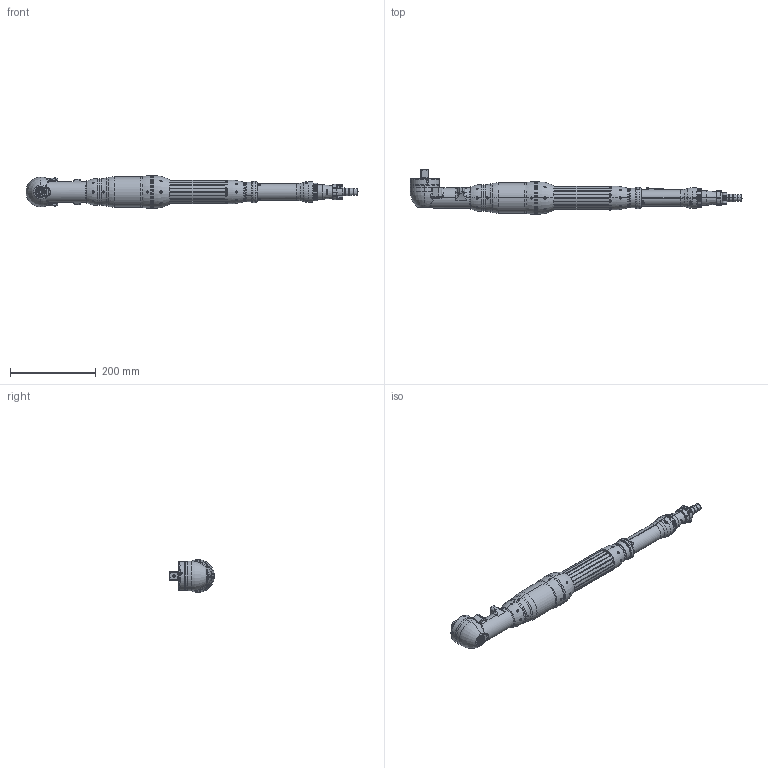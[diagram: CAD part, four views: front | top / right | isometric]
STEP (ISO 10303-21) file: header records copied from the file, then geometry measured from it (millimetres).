
FILE_DESCRIPTION (( 'STEP AP214' ), '1' );
FILE_NAME ('370拧紧枪.STEP', '2025-05-23T01:57:54', ( '' ), ( '' ), 'SwSTEP 2.0', 'SolidWorks 2021', '' );
FILE_SCHEMA (( 'AUTOMOTIVE_DESIGN' ));
Length unit declared in the file: millimetre
Products named in the file (1): 370禳踡Л
Bounding box: 774.8 x 104 x 76 mm (x, y, z)
Surface area: 158638.6 mm2 (no closed solid volume)
Topology: 0 solids, 34 shells, 1189 faces, 3743 edges, 2587 vertices
Faces by surface type: plane 455, cylinder 396, bspline 138, torus 116, cone 84
Entity records: 114792 total; most frequent: CARTESIAN_POINT 71837, ORIENTED_EDGE 6105, DIRECTION 5407, EDGE_CURVE 3731, VERTEX_POINT 2587, AXIS2_PLACEMENT_3D 2068, B_SPLINE_CURVE_WITH_KNOTS 1440, EDGE_LOOP 1296
